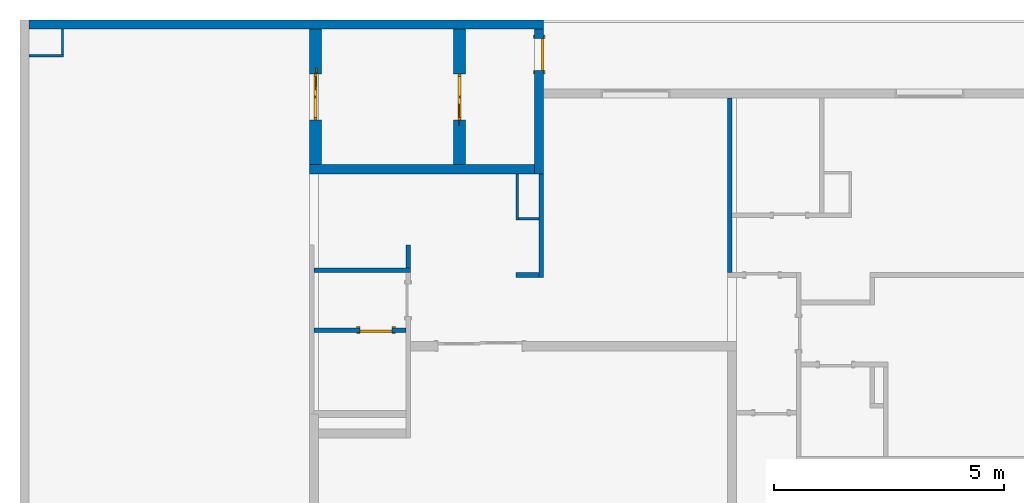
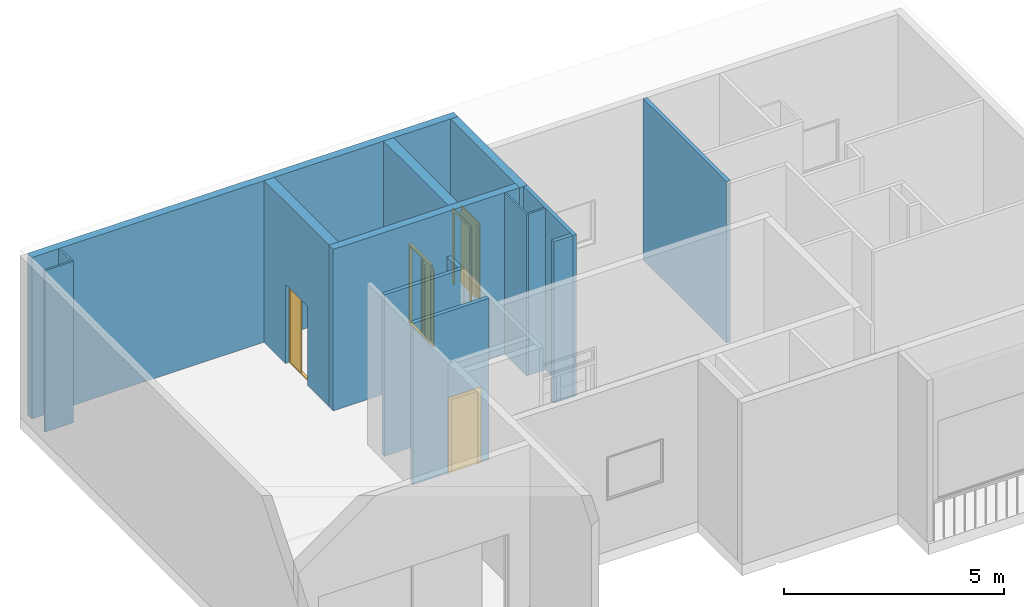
# One storey, part 3 of 7: 15 walls, 4 doors, 4 openings.
"""IFC2X3 building model written with IfcOpenShell, lengths in metres."""

from ifc_helpers import new_model, entity, si_unit, converted_unit, derived_unit, direction, frame, frame_2d, origin, origin_2d_with_axis, place, context, subcontext, project, spatial, polyline, rectangle, outline, extrude, faceted_brep, source, transform, mapped, material, material_list, layer, layer_set, layer_usage, type_object, type_shapes, element, fill, save


model = new_model("IFC2X3")

# Units and contexts
model_context = context("Model", 3, precision=1e-05, world=origin(), true_north=direction((6.123031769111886e-17, 1.0)))
body_context = subcontext(model_context, "Body", "Model", "MODEL_VIEW")
ifc_project = project(units=[si_unit("LENGTHUNIT", "METRE"), si_unit("AREAUNIT", "SQUARE_METRE"), si_unit("VOLUMEUNIT", "CUBIC_METRE"), converted_unit("PLANEANGLEUNIT", "DEGREE", entity("IfcRatioMeasure", 0.017453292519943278), si_unit("PLANEANGLEUNIT", "RADIAN"), dimensions=[0, 0, 0, 0, 0, 0, 0]), si_unit("MASSUNIT", "GRAM", prefix="KILO"), derived_unit("MASSDENSITYUNIT", [(si_unit("MASSUNIT", "GRAM", prefix="KILO"), 1), (si_unit("LENGTHUNIT", "METRE"), -3)]), derived_unit("MOMENTOFINERTIAUNIT", [(si_unit("LENGTHUNIT", "METRE"), 4)]), si_unit("TIMEUNIT", "SECOND"), si_unit("FREQUENCYUNIT", "HERTZ"), si_unit("THERMODYNAMICTEMPERATUREUNIT", "DEGREE_CELSIUS"), derived_unit("THERMALTRANSMITTANCEUNIT", [(si_unit("MASSUNIT", "GRAM", prefix="KILO"), 1), (si_unit("THERMODYNAMICTEMPERATUREUNIT", "KELVIN"), -1), (si_unit("TIMEUNIT", "SECOND"), -3)]), derived_unit("VOLUMETRICFLOWRATEUNIT", [(si_unit("LENGTHUNIT", "METRE"), 3), (si_unit("TIMEUNIT", "SECOND"), -1)]), derived_unit("MASSFLOWRATEUNIT", [(si_unit("MASSUNIT", "GRAM", prefix="KILO"), 1), (si_unit("TIMEUNIT", "SECOND"), -1)]), derived_unit("ROTATIONALFREQUENCYUNIT", [(si_unit("TIMEUNIT", "SECOND"), -1)]), si_unit("ELECTRICCURRENTUNIT", "AMPERE"), si_unit("ELECTRICVOLTAGEUNIT", "VOLT"), si_unit("POWERUNIT", "WATT"), si_unit("FORCEUNIT", "NEWTON", prefix="KILO"), si_unit("ILLUMINANCEUNIT", "LUX"), si_unit("LUMINOUSFLUXUNIT", "LUMEN"), si_unit("LUMINOUSINTENSITYUNIT", "CANDELA"), derived_unit("USERDEFINED", [(si_unit("MASSUNIT", "GRAM", prefix="KILO"), -1), (si_unit("LENGTHUNIT", "METRE"), -2), (si_unit("TIMEUNIT", "SECOND"), 3), (si_unit("LUMINOUSFLUXUNIT", "LUMEN"), 1)]), derived_unit("SOUNDPOWERUNIT", [(si_unit("MASSUNIT", "GRAM", prefix="KILO"), 1), (si_unit("LENGTHUNIT", "METRE"), 2), (si_unit("TIMEUNIT", "SECOND"), -3)]), derived_unit("SOUNDPRESSUREUNIT", [(si_unit("MASSUNIT", "GRAM", prefix="KILO"), 1), (si_unit("LENGTHUNIT", "METRE"), -1), (si_unit("TIMEUNIT", "SECOND"), -2)]), derived_unit("LINEARVELOCITYUNIT", [(si_unit("LENGTHUNIT", "METRE"), 1), (si_unit("TIMEUNIT", "SECOND"), -1)]), si_unit("PRESSUREUNIT", "PASCAL"), derived_unit("USERDEFINED", [(si_unit("LENGTHUNIT", "METRE"), -2), (si_unit("MASSUNIT", "GRAM", prefix="KILO"), 1), (si_unit("TIMEUNIT", "SECOND"), -2)]), derived_unit("LINEARFORCEUNIT", [(si_unit("MASSUNIT", "GRAM", prefix="KILO"), 1), (si_unit("LENGTHUNIT", "METRE"), 1), (si_unit("TIMEUNIT", "SECOND"), -2), (si_unit("LENGTHUNIT", "METRE"), -1)]), derived_unit("PLANARFORCEUNIT", [(si_unit("MASSUNIT", "GRAM", prefix="KILO"), 1), (si_unit("LENGTHUNIT", "METRE"), 1), (si_unit("TIMEUNIT", "SECOND"), -2), (si_unit("LENGTHUNIT", "METRE"), -2)])], contexts=[model_context])

# Site, building, storey
site_placement = place(None, origin())
site = spatial("IfcSite", under=ifc_project, at=site_placement, Name="Default", CompositionType="ELEMENT")
building_placement = place(site_placement, origin())
building = spatial("IfcBuilding", under=site, at=building_placement, CompositionType="ELEMENT")
storey_placement = place(building_placement, frame((0.0, 0.0, 5.639999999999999)))
storey = spatial("IfcBuildingStorey", under=building, at=storey_placement, Name="F1", CompositionType="ELEMENT", Elevation=5.639999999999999)

# Wall
ifc_material_1 = material(Name="Masonry - Concrete Block")
ifc_layer_1 = layer(ifc_material_1, 0.2)
ifc_layer_set_1 = layer_set([ifc_layer_1], Name="Basic Wall:CW 200")
ifc_layer_usage_1 = layer_usage(ifc_layer_set_1, "AXIS2", "NEGATIVE", 0.1)
wall_type_1 = type_object("IfcWallType", Name="Basic Wall:CW 200", PredefinedType="STANDARD", material=ifc_layer_set_1)
wall_1_placement = place(storey_placement, frame((6.807683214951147, 5.902607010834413, 0.0)))
element("IfcWallStandardCase", 1, at=wall_1_placement, inside=storey, type_object=wall_type_1, material=ifc_layer_usage_1, Name="Basic Wall:CW 200", ObjectType="Basic Wall:CW 200", context=body_context, shape_type="SweptSolid", body=[
    extrude(rectangle(XDim=11.199999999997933, YDim=0.2, at=frame_2d((5.599999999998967, -2.220446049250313e-16), x_axis=(-1.0, 0.0))), origin(), (0.0, 0.0, 1.0), 4.490000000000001),
])

# Wall, opening, door
ifc_layer_usage_2 = layer_usage(ifc_layer_set_1, "AXIS2", "NEGATIVE", 0.1)
wall_2_placement = place(storey_placement, frame((17.90768321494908, 5.802607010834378, 0.0), z_axis=(0.0, 0.0, 1.0), x_axis=(0.0, -1.0, 0.0)))
wall_2 = element("IfcWallStandardCase", 2, at=wall_2_placement, inside=storey, type_object=wall_type_1, material=ifc_layer_usage_2, Name="Basic Wall:CW 200", ObjectType="Basic Wall:CW 200", context=body_context, shape_type="SweptSolid", body=[
    extrude(rectangle(XDim=3.150000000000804, YDim=0.2, at=frame_2d((1.5750000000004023, -9.367506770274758e-16), x_axis=(1.0, 0.0))), origin(), (0.0, 0.0, 1.0), 4.490000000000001),
])
opening_1_placement = place(wall_2_placement, frame((0.19999999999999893, -0.10000000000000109, 0.0)))
opening_1 = element("IfcOpeningElement", 3, at=opening_1_placement, cuts=wall_2, Name="M_Single-Flush:0762 x 2032mm:1", ObjectType="Opening", context=body_context, shape_type="SweptSolid", body=[
    extrude(rectangle(XDim=0.6999999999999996, YDim=2.0319999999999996, at=frame_2d((1.0159999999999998, 0.3500000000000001), x_axis=(0.0, 1.0))), frame((0.0, 0.0, 0.0), z_axis=(0.0, 1.0, 0.0), x_axis=(0.0, 0.0, 1.0)), (0.0, 0.0, 1.0), 0.2),
])
ifc_material_2 = material(Name="Door - Frame")
ifc_material_3 = material(Name="Door - Panel")
ifc_material_list_1 = material_list([ifc_material_2, ifc_material_2, ifc_material_3])
ifc_material_list_2 = material_list([ifc_material_2, ifc_material_2, ifc_material_3])
door_style_1 = type_object("IfcDoorStyle", Name="M_Single-Flush:0762 x 2032mm", ConstructionType="NOTDEFINED", OperationType="NOTDEFINED", ParameterTakesPrecedence=False, Sizeable=False, material=ifc_material_list_2)
shared_shape_1 = source(origin(), body_context, "Body", "SweptSolid", [
    extrude(outline(polyline([(-0.426, -1.0729999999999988), (0.4259999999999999, -1.0729999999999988), (0.4259999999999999, 1.0350000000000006), (0.3499999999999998, 1.0350000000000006), (0.3499999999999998, -0.9970000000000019), (-0.3499999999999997, -0.9970000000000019), (-0.3499999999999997, 1.0350000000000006), (-0.426, 1.0350000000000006), (-0.426, -1.0729999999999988)])), frame((0.35000000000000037, 0.19999999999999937, 1.0350000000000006), z_axis=(0.0, 1.0, 0.0), x_axis=(1.0, 0.0, 0.0)), (0.0, 0.0, 1.0), 0.024999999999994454),
    extrude(outline(polyline([(-1.0729999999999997, -0.42599999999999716), (1.0349999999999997, -0.42599999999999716), (1.0349999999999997, -0.3500000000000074), (-0.9969999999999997, -0.3500000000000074), (-0.9969999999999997, 0.35000000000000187), (1.0349999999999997, 0.35000000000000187), (1.0349999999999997, 0.4260000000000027), (-1.0729999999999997, 0.4260000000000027), (-1.0729999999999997, -0.42599999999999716)])), frame((0.35000000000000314, -0.02500000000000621, 1.0349999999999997), z_axis=(0.0, 1.0, 0.0), x_axis=(0.0, 0.0, -1.0)), (0.0, 0.0, 1.0), 0.02500000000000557),
    extrude(rectangle(XDim=0.051000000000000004, YDim=0.6999999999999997, at=frame_2d((-3.469446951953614e-18, 0.0), x_axis=(1.0, 0.0))), frame((0.35000000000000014, 0.17449999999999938, 0.0), z_axis=(0.0, 0.0, 1.0), x_axis=(0.0, 1.0, 0.0)), (0.0, 0.0, 1.0), 2.0319999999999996),
])
type_shapes(door_style_1, [shared_shape_1])
door_1_placement = place(opening_1_placement, origin())
door_1 = element("IfcDoor", 4, at=door_1_placement, inside=storey, type_object=door_style_1, material=ifc_material_list_1, Name="M_Single-Flush:0762 x 2032mm", ObjectType="M_Single-Flush:0762 x 2032mm", OverallHeight=2.0319999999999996, OverallWidth=0.7000000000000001, context=body_context, shape_type="MappedRepresentation", body=[
    mapped(shared_shape_1, transform((0.0, 0.0, 0.0), scale=1.0)),
])
fill(opening_1, door_1)

# Walls
ifc_layer_usage_3 = layer_usage(ifc_layer_set_1, "AXIS2", "NEGATIVE", 0.1)
wall_3_placement = place(storey_placement, frame((17.807683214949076, 2.7526070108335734, 0.0), z_axis=(0.0, 0.0, 1.0), x_axis=(-1.0, 0.0, 0.0)))
element("IfcWallStandardCase", 5, at=wall_3_placement, inside=storey, type_object=wall_type_1, material=ifc_layer_usage_3, Name="Basic Wall:CW 200", ObjectType="Basic Wall:CW 200", context=body_context, shape_type="SweptSolid", body=[
    extrude(rectangle(XDim=4.900000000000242, YDim=0.2, at=frame_2d((2.450000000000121, 0.0), x_axis=(-1.0, 0.0))), origin(), (0.0, 0.0, 1.0), 4.490000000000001),
])
ifc_layer_2 = layer(ifc_material_1, 0.1)
ifc_layer_set_2 = layer_set([ifc_layer_2], Name="Basic Wall:CW 100")
ifc_layer_usage_4 = layer_usage(ifc_layer_set_2, "AXIS2", "NEGATIVE", 0.05)
wall_type_2 = type_object("IfcWallType", Name="Basic Wall:CW 100", PredefinedType="STANDARD", material=ifc_layer_set_2)
wall_4_placement = place(storey_placement, frame((13.007683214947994, 0.5526070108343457, 0.0)))
element("IfcWallStandardCase", 6, at=wall_4_placement, inside=storey, type_object=wall_type_2, material=ifc_layer_usage_4, Name="Basic Wall:CW 100", ObjectType="Basic Wall:CW 100", context=body_context, shape_type="SweptSolid", body=[
    extrude(rectangle(XDim=2.100000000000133, YDim=0.1, at=frame_2d((1.0500000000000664, 0.0), x_axis=(-1.0, 0.0))), origin(), (0.0, 0.0, 1.0), 4.490000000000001),
])
ifc_layer_usage_5 = layer_usage(ifc_layer_set_2, "AXIS2", "NEGATIVE", 0.05)
wall_5_placement = place(storey_placement, frame((15.057683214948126, 0.602607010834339, 0.0), z_axis=(0.0, 0.0, 1.0), x_axis=(0.0, 1.0, 0.0)))
element("IfcWallStandardCase", 7, at=wall_5_placement, inside=storey, type_object=wall_type_2, material=ifc_layer_usage_5, Name="Basic Wall:CW 100", ObjectType="Basic Wall:CW 100", context=body_context, shape_type="SweptSolid", body=[
    extrude(rectangle(XDim=0.5000000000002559, YDim=0.09999999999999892, at=frame_2d((0.25000000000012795, 0.0), x_axis=(-1.0, 0.0))), origin(), (0.0, 0.0, 1.0), 4.490000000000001),
])

# Wall, opening, door
ifc_layer_usage_6 = layer_usage(ifc_layer_set_2, "AXIS2", "NEGATIVE", 0.05)
wall_6_placement = place(storey_placement, frame((15.007683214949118, -0.7473929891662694, 0.0), z_axis=(0.0, 0.0, 1.0), x_axis=(-1.0, 0.0, 0.0)))
wall_6 = element("IfcWallStandardCase", 8, at=wall_6_placement, inside=storey, type_object=wall_type_2, material=ifc_layer_usage_6, Name="Basic Wall:CW 100", ObjectType="Basic Wall:CW 100", context=body_context, shape_type="SweptSolid", body=[
    extrude(rectangle(XDim=2.0000000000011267, YDim=0.1, at=frame_2d((1.000000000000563, -1.0408340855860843e-17), x_axis=(1.0, 0.0))), origin(), (0.0, 0.0, 1.0), 4.490000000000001),
])
opening_2_placement = place(wall_6_placement, frame((0.29999999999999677, -0.05000000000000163, 0.0)))
opening_2 = element("IfcOpeningElement", 9, at=opening_2_placement, cuts=wall_6, Name="M_Single-Flush:0762 x 2032mm:1", ObjectType="Opening", context=body_context, shape_type="SweptSolid", body=[
    extrude(rectangle(XDim=0.6999999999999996, YDim=2.0319999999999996, at=frame_2d((1.0159999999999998, 0.34999999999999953), x_axis=(0.0, 1.0))), frame((0.0, 0.0, 0.0), z_axis=(0.0, 1.0, 0.0), x_axis=(0.0, 0.0, 1.0)), (0.0, 0.0, 1.0), 0.1),
])
ifc_material_list_3 = material_list([ifc_material_2, ifc_material_3])
ifc_material_list_4 = material_list([ifc_material_2, ifc_material_2, ifc_material_3])
door_style_2 = type_object("IfcDoorStyle", Name="M_Single-Flush:0762 x 2032mm", ConstructionType="NOTDEFINED", OperationType="NOTDEFINED", ParameterTakesPrecedence=False, Sizeable=False, material=ifc_material_list_4)
shared_shape_2 = source(origin(), body_context, "Body", "SweptSolid", [
    extrude(outline(polyline([(-0.426, -1.0729999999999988), (0.4259999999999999, -1.0729999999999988), (0.4259999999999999, 1.0350000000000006), (0.3499999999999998, 1.0350000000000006), (0.3499999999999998, -0.9970000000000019), (-0.3499999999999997, -0.9970000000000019), (-0.3499999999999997, 1.0350000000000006), (-0.426, 1.0350000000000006), (-0.426, -1.0729999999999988)])), frame((0.3500000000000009, 0.10000000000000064, 1.0350000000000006), z_axis=(0.0, 1.0, 0.0), x_axis=(1.0, 0.0, 0.0)), (0.0, 0.0, 1.0), 0.024999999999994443),
    extrude(outline(polyline([(-1.0729999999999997, -0.42599999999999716), (1.0349999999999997, -0.42599999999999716), (1.0349999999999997, -0.3500000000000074), (-0.9969999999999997, -0.3500000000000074), (-0.9969999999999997, 0.35000000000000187), (1.0349999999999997, 0.35000000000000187), (1.0349999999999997, 0.4260000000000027), (-1.0729999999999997, 0.4260000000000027), (-1.0729999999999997, -0.42599999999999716)])), frame((0.35000000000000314, -0.025000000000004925, 1.0349999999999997), z_axis=(0.0, 1.0, 0.0), x_axis=(0.0, 0.0, -1.0)), (0.0, 0.0, 1.0), 0.025000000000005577),
    extrude(rectangle(XDim=0.051000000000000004, YDim=0.6999999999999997, at=origin_2d_with_axis()), frame((0.3500000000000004, 0.07450000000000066, 0.0), z_axis=(0.0, 0.0, 1.0), x_axis=(0.0, 1.0, 0.0)), (0.0, 0.0, 1.0), 2.0319999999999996),
])
type_shapes(door_style_2, [shared_shape_2])
door_2_placement = place(opening_2_placement, origin())
door_2 = element("IfcDoor", 10, at=door_2_placement, inside=storey, type_object=door_style_2, material=ifc_material_list_3, Name="M_Single-Flush:0762 x 2032mm", ObjectType="M_Single-Flush:0762 x 2032mm", OverallHeight=2.0319999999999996, OverallWidth=0.699999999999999, context=body_context, shape_type="MappedRepresentation", body=[
    mapped(shared_shape_2, transform((0.0, 0.0, 0.0), scale=1.0)),
])
fill(opening_2, door_2)

# Walls
ifc_layer_usage_7 = layer_usage(ifc_layer_set_2, "AXIS2", "NEGATIVE", 0.05)
wall_7_placement = place(storey_placement, frame((22.057683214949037, 0.5026070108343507, 0.0), z_axis=(0.0, 0.0, 1.0), x_axis=(0.0, 1.0, 0.0)))
element("IfcWallStandardCase", 11, at=wall_7_placement, inside=storey, type_object=wall_type_2, material=ifc_layer_usage_7, Name="Basic Wall:CW 100", ObjectType="Basic Wall:CW 100", context=body_context, shape_type="SweptSolid", body=[
    extrude(rectangle(XDim=3.800000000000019, YDim=0.10000000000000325, at=frame_2d((1.9000000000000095, 0.0), x_axis=(-1.0, 0.0))), origin(), (0.0, 0.0, 1.0), 4.490000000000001),
])
ifc_layer_usage_8 = layer_usage(ifc_layer_set_2, "AXIS2", "NEGATIVE", 0.05)
wall_8_placement = place(storey_placement, frame((17.957683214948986, 2.6526070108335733, 0.0), z_axis=(0.0, 0.0, 1.0), x_axis=(0.0, -1.0, 0.0)))
element("IfcWallStandardCase", 12, at=wall_8_placement, inside=storey, type_object=wall_type_2, material=ifc_layer_usage_8, Name="Basic Wall:CW 100", ObjectType="Basic Wall:CW 100", context=body_context, shape_type="SweptSolid", body=[
    extrude(rectangle(XDim=2.2499999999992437, YDim=0.09999999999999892, at=frame_2d((1.1249999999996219, 1.0061396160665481e-16), x_axis=(-1.0, 0.0))), origin(), (0.0, 0.0, 1.0), 4.490000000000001),
])
ifc_layer_usage_9 = layer_usage(ifc_layer_set_2, "AXIS2", "NEGATIVE", 0.05)
wall_9_placement = place(storey_placement, frame((17.90768321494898, 0.45260701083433, 0.0), z_axis=(0.0, 0.0, 1.0), x_axis=(-1.0, 0.0, 0.0)))
element("IfcWallStandardCase", 13, at=wall_9_placement, inside=storey, type_object=wall_type_2, material=ifc_layer_usage_9, Name="Basic Wall:CW 100", ObjectType="Basic Wall:CW 100", context=body_context, shape_type="SweptSolid", body=[
    extrude(rectangle(XDim=0.49999999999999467, YDim=0.1, at=frame_2d((0.24999999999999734, 0.0), x_axis=(-1.0, 0.0))), origin(), (0.0, 0.0, 1.0), 4.490000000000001),
])

# Wall, opening, door
ifc_layer_3 = layer(ifc_material_1, 0.25999999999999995)
ifc_layer_set_3 = layer_set([ifc_layer_3], Name="Basic Wall:CW 260")
ifc_layer_usage_10 = layer_usage(ifc_layer_set_3, "AXIS2", "NEGATIVE", 0.12999999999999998)
wall_type_3 = type_object("IfcWallType", Name="Basic Wall:CW 260", PredefinedType="STANDARD", material=ifc_layer_set_3)
wall_10_placement = place(storey_placement, frame((16.177683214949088, 5.802607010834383, 0.0), z_axis=(0.0, 0.0, 1.0), x_axis=(0.0, -1.0, 0.0)))
wall_10 = element("IfcWallStandardCase", 14, at=wall_10_placement, inside=storey, type_object=wall_type_3, material=ifc_layer_usage_10, Name="Basic Wall:CW 260", ObjectType="Basic Wall:CW 260", context=body_context, shape_type="SweptSolid", body=[
    extrude(rectangle(XDim=2.9500000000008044, YDim=0.25999999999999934, at=frame_2d((1.4750000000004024, 1.096345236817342e-15), x_axis=(1.0, 0.0))), origin(), (0.0, 0.0, 1.0), 4.490000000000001),
])
opening_3_placement = place(wall_10_placement, frame((1.975000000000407, 0.1299999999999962, 0.0)))
opening_3 = element("IfcOpeningElement", 15, at=opening_3_placement, cuts=wall_10, Name="Parametric_Operable_Sliding_Door_6386.0004:3000W x 2400H:1", ObjectType="Opening", context=body_context, shape_type="SweptSolid", body=[
    extrude(rectangle(XDim=2.199999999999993, YDim=1.0000000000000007, at=frame_2d((1.0999999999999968, 0.5000000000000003), x_axis=(1.0, 0.0))), frame((0.0, 0.0, 0.0), z_axis=(0.0, -1.0, 0.0), x_axis=(0.0, 0.0, 1.0)), (0.0, 0.0, 1.0), 0.25999999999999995),
])
ifc_material_4 = material(Name="Window Glass")
ifc_material_5 = material(Name="Window Frame")
ifc_material_list_5 = material_list([ifc_material_4, ifc_material_5])
ifc_material_list_6 = material_list([ifc_material_4, ifc_material_5, ifc_material_4, ifc_material_5])
door_style_3 = type_object("IfcDoorStyle", Name="Parametric_Operable_Sliding_Door_6386.0004:3000W x 2400H", ConstructionType="NOTDEFINED", OperationType="NOTDEFINED", ParameterTakesPrecedence=False, Sizeable=False, material=ifc_material_list_6)
shared_shape_3 = source(origin(), body_context, "Body", "Brep", [
    faceted_brep([(0.720000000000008, 0.11750000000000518, 2.080000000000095), (0.720000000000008, 0.11750000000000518, 0.07000000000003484), (0.720000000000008, 0.10750000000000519, 0.07000000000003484), (0.720000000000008, 0.10750000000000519, 2.080000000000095), (1.0550000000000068, 0.11750000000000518, 2.080000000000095), (1.0550000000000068, 0.11750000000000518, 0.07000000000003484), (1.0550000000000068, 0.10750000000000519, 0.07000000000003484), (1.0550000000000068, 0.10750000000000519, 2.080000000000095)], [[[0, 1, 2, 3]], [[1, 0, 4, 5]], [[2, 1, 5, 6]], [[3, 2, 6, 7]], [[4, 7, 6, 5]], [[0, 3, 7, 4]]]),
    faceted_brep([(1.0550000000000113, 0.09999999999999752, 0.06999999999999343), (1.0550000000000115, 0.12499999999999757, 0.0699999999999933), (1.0, 0.12499999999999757, 0.0699999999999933), (1.0, 0.09999999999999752, 0.0699999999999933), (0.7200000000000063, 0.09999999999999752, 0.06999999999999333), (0.7200000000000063, 0.12499999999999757, 0.06999999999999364), (0.7200000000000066, 0.12499999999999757, 2.080000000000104), (0.7200000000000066, 0.09999999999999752, 2.080000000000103), (1.0550000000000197, 0.12499999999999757, 2.080000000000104), (1.0, 0.12499999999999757, 2.080000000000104), (1.0, 0.12499999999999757, 2.1500000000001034), (1.125000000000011, 0.12499999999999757, 2.150000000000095), (1.125000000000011, 0.12499999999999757, 0.0), (1.0, 0.12499999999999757, 0.0), (1.0550000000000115, 0.09999999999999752, 2.080000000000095), (1.0, 0.09999999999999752, 0.0), (1.125000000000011, 0.0999999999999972, 0.0), (1.1250000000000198, 0.09999999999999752, 2.1500000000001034), (1.0, 0.09999999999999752, 2.1500000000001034), (1.0, 0.09999999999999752, 2.080000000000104), (0.6500000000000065, 0.09999999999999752, 0.02500000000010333), (0.6500000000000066, 0.09999999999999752, 2.1499999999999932), (0.6500000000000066, 0.12499999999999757, 2.1500000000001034), (0.6500000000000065, 0.12499999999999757, 0.025000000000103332), (0.0499999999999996, 0.09500000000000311, 0.02500000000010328), (0.9499999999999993, 0.0950000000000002, 0.025000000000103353), (0.9499999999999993, 0.09999999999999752, 0.02500000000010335), (0.9499999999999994, 0.12499999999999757, 0.025000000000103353), (0.9499999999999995, 0.1650000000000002, 0.025000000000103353), (0.04999999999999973, 0.1650000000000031, 0.02500000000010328), (1.0, 0.09500000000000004, 0.0), (0.0, 0.09500000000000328, 0.0), (0.0, 0.16500000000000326, 0.0), (1.0, 0.16500000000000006, 0.0), (0.9499999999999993, 0.0950000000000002, 2.1499999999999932), (0.9499999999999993, 0.09999999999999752, 2.1500000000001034), (0.9499999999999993, 0.09999999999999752, 2.080000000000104), (0.9499999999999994, 0.12499999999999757, 2.080000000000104), (0.9499999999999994, 0.12499999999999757, 2.1500000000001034), (0.9499999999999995, 0.1650000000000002, 2.1499999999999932), (0.9499999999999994, 0.12499999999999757, 0.06999999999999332), (0.9499999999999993, 0.09999999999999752, 0.06999999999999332), (1.0, 0.09500000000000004, 2.199999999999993), (1.0, 0.165, 2.199999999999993), (0.0, 0.09500000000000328, 2.199999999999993), (0.0499999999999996, 0.09500000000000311, 2.1499999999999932), (0.0, 0.16500000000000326, 2.199999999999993), (0.04999999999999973, 0.1650000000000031, 2.1499999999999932)], [[[0, 1, 2, 3]], [[4, 5, 6, 7]], [[1, 8, 9, 10, 11, 12, 13, 2]], [[14, 0, 3, 15, 16, 17, 18, 19]], [[20, 21, 22, 23]], [[24, 25, 26, 20, 23, 27, 28, 29]], [[11, 17, 16, 12]], [[12, 16, 15, 30, 31, 32, 33, 13]], [[25, 34, 35, 36, 37, 38, 39, 28, 27, 40, 41, 26]], [[42, 30, 15, 3, 2, 13, 33, 43], [9, 19, 18, 10]], [[30, 42, 44, 31], [45, 34, 25, 24]], [[31, 44, 46, 32]], [[33, 32, 46, 43], [47, 29, 28, 39]], [[45, 24, 29, 47]], [[7, 6, 37, 36]], [[17, 11, 10, 18]], [[44, 42, 43, 46]], [[34, 45, 47, 39, 38, 22, 21, 35]], [[14, 8, 1, 0]], [[8, 14, 19, 9]], [[4, 7, 36, 35, 21, 20, 26, 41]], [[6, 5, 40, 27, 23, 22, 38, 37]], [[5, 4, 41, 40]]]),
    faceted_brep([(0.5249999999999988, 0.14499999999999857, 2.1499999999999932), (0.5249999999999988, 0.14499999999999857, 0.02500000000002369), (0.9499999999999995, 0.14499999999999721, 0.02500000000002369), (0.9499999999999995, 0.14499999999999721, 2.1499999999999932), (0.5249999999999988, 0.15099999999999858, 2.1499999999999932), (0.5249999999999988, 0.15099999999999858, 0.02500000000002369), (0.9499999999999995, 0.1509999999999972, 0.02500000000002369), (0.9499999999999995, 0.1509999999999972, 2.1499999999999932)], [[[0, 1, 2, 3]], [[1, 0, 4, 5]], [[2, 1, 5, 6]], [[3, 2, 6, 7]], [[4, 7, 6, 5]], [[0, 3, 7, 4]]]),
    faceted_brep([(0.4749999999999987, 0.12999999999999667, 2.1499999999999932), (0.4749999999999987, 0.12999999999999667, 0.025000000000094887), (0.5249999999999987, 0.1299999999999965, 0.02500000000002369), (0.5249999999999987, 0.1299999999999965, 2.1499999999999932), (0.4749999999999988, 0.16000000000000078, 2.1499999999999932), (0.4749999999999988, 0.16000000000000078, 0.025000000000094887), (0.5249999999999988, 0.16000000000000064, 0.02500000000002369), (0.5249999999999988, 0.16000000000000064, 2.1499999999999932)], [[[0, 1, 2, 3]], [[1, 0, 4, 5]], [[2, 1, 5, 6]], [[3, 2, 6, 7]], [[4, 7, 6, 5]], [[0, 3, 7, 4]]]),
])
type_shapes(door_style_3, [shared_shape_3])
door_3_placement = place(opening_3_placement, frame((-1.0, -0.259999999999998, 0.0)))
door_3 = element("IfcDoor", 16, at=door_3_placement, inside=storey, type_object=door_style_3, material=ifc_material_list_5, Name="Parametric_Operable_Sliding_Door_6386.0004:3000W x 2400H", ObjectType="Parametric_Operable_Sliding_Door_6386.0004:3000W x 2400H", OverallHeight=2.1999999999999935, OverallWidth=1.0000000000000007, context=body_context, shape_type="MappedRepresentation", body=[
    mapped(shared_shape_3, transform((0.0, 0.0, 0.0), scale=1.0)),
])
fill(opening_3, door_3)

ifc_layer_usage_11 = layer_usage(ifc_layer_set_3, "AXIS2", "NEGATIVE", 0.12999999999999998)
wall_11_placement = place(storey_placement, frame((13.037683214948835, 5.802607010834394, 0.0), z_axis=(0.0, 0.0, 1.0), x_axis=(0.0, -1.0, 0.0)))
wall_11 = element("IfcWallStandardCase", 17, at=wall_11_placement, inside=storey, type_object=wall_type_3, material=ifc_layer_usage_11, Name="Basic Wall:CW 260", ObjectType="Basic Wall:CW 260", context=body_context, shape_type="SweptSolid", body=[
    extrude(rectangle(XDim=2.950000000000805, YDim=0.25999999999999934, at=frame_2d((1.4750000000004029, 1.096345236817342e-15), x_axis=(1.0, 0.0))), origin(), (0.0, 0.0, 1.0), 4.490000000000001),
])
opening_4_placement = place(wall_11_placement, frame((0.9750000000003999, -0.12999999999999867, 0.0)))
opening_4 = element("IfcOpeningElement", 18, at=opening_4_placement, cuts=wall_11, Name="Parametric_Operable_Sliding_Door_6386.0004:3000W x 2400H:1", ObjectType="Opening", context=body_context, shape_type="SweptSolid", body=[
    extrude(rectangle(XDim=2.199999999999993, YDim=1.0000000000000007, at=frame_2d((1.0999999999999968, 0.5000000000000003), x_axis=(1.0, 0.0))), frame((0.0, 0.0, 0.0), z_axis=(0.0, 1.0, 0.0), x_axis=(0.0, 0.0, 1.0)), (0.0, 0.0, 1.0), 0.25999999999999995),
])
ifc_material_list_7 = material_list([ifc_material_4, ifc_material_5, ifc_material_4, ifc_material_5])
door_4_placement = place(opening_4_placement, frame((1.0, 0.25999999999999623, 0.0), z_axis=(0.0, 0.0, 1.0), x_axis=(-1.0, 0.0, 0.0)))
door_4 = element("IfcDoor", 19, at=door_4_placement, inside=storey, type_object=door_style_3, material=ifc_material_list_7, Name="Parametric_Operable_Sliding_Door_6386.0004:3000W x 2400H", ObjectType="Parametric_Operable_Sliding_Door_6386.0004:3000W x 2400H", OverallHeight=2.1999999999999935, OverallWidth=1.0000000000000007, context=body_context, shape_type="MappedRepresentation", body=[
    mapped(shared_shape_3, transform((0.0, 0.0, 0.0), scale=1.0)),
])
fill(opening_4, door_4)

# Walls
ifc_layer_4 = layer(ifc_material_1, 0.05)
ifc_layer_set_4 = layer_set([ifc_layer_4], Name="Basic Wall:CW 50")
ifc_layer_usage_12 = layer_usage(ifc_layer_set_4, "AXIS2", "NEGATIVE", 0.025)
wall_type_4 = type_object("IfcWallType", Name="Basic Wall:CW 50", PredefinedType="STANDARD", material=ifc_layer_set_4)
wall_12_placement = place(storey_placement, frame((17.432683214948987, 2.652607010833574, 0.0), z_axis=(0.0, 0.0, 1.0), x_axis=(0.0, -1.0, 0.0)))
element("IfcWallStandardCase", 20, at=wall_12_placement, inside=storey, type_object=wall_type_4, material=ifc_layer_usage_12, Name="Basic Wall:CW 50", ObjectType="Basic Wall:CW 50", context=body_context, shape_type="SweptSolid", body=[
    extrude(rectangle(XDim=0.9999999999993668, YDim=0.050000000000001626, at=frame_2d((0.4999999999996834, 0.0), x_axis=(-1.0, 0.0))), origin(), (0.0, 0.0, 1.0), 4.490000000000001),
])
ifc_layer_usage_13 = layer_usage(ifc_layer_set_4, "AXIS2", "NEGATIVE", 0.025)
wall_13_placement = place(storey_placement, frame((17.457683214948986, 1.6776070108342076, 0.0)))
element("IfcWallStandardCase", 21, at=wall_13_placement, inside=storey, type_object=wall_type_4, material=ifc_layer_usage_13, Name="Basic Wall:CW 50", ObjectType="Basic Wall:CW 50", context=body_context, shape_type="SweptSolid", body=[
    extrude(rectangle(XDim=0.4499999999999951, YDim=0.05, at=frame_2d((0.22499999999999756, 5.551115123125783e-17), x_axis=(-1.0, 0.0))), origin(), (0.0, 0.0, 1.0), 4.490000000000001),
])
ifc_layer_usage_14 = layer_usage(ifc_layer_set_4, "AXIS2", "NEGATIVE", 0.025)
wall_14_placement = place(storey_placement, frame((6.807683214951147, 5.227607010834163, 0.0)))
element("IfcWallStandardCase", 22, at=wall_14_placement, inside=storey, type_object=wall_type_4, material=ifc_layer_usage_14, Name="Basic Wall:CW 50", ObjectType="Basic Wall:CW 50", context=body_context, shape_type="SweptSolid", body=[
    extrude(rectangle(XDim=0.7499999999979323, YDim=0.04999999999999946, at=frame_2d((0.37499999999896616, 0.0), x_axis=(-1.0, 0.0))), origin(), (0.0, 0.0, 1.0), 4.490000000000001),
])
ifc_layer_usage_15 = layer_usage(ifc_layer_set_4, "AXIS2", "NEGATIVE", 0.025)
wall_15_placement = place(storey_placement, frame((7.532683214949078, 5.2526070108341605, 0.0), z_axis=(0.0, 0.0, 1.0), x_axis=(0.0, 1.0, 0.0)))
element("IfcWallStandardCase", 23, at=wall_15_placement, inside=storey, type_object=wall_type_4, material=ifc_layer_usage_15, Name="Basic Wall:CW 50", ObjectType="Basic Wall:CW 50", context=body_context, shape_type="SweptSolid", body=[
    extrude(rectangle(XDim=0.5500000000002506, YDim=0.04999999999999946, at=frame_2d((0.2750000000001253, -4.336808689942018e-17), x_axis=(-1.0, 0.0))), origin(), (0.0, 0.0, 1.0), 4.490000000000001),
])

save(model, "model.ifc")
